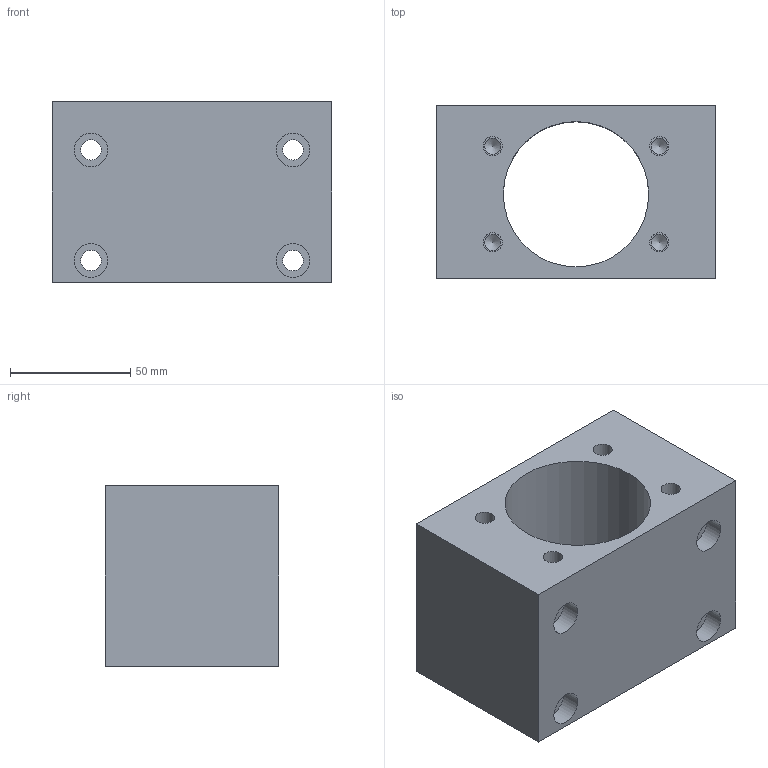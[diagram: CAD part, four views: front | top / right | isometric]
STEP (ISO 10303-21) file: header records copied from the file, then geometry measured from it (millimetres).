
FILE_DESCRIPTION(/* description */ (''),/* implementation_level */ '2;1');
FILE_NAME(/* name */ 'NH25F.stp',/* time_stamp */ '2017-01-06T08:09:14+08:00',/* author */ (''),/* organization */ (''),/* preprocessor_version */ 'ST-DEVELOPER v15',/* originating_system */ 'SIEMENS PLM Software NX 8.5',/* authorisation */ '');
FILE_SCHEMA (('AUTOMOTIVE_DESIGN { 1 0 10303 214 3 1 1 1 }'));
Length unit declared in the file: millimetre
Products named in the file (1): Admi1D605E1Dbzt3
Bounding box: 116 x 72 x 75 mm (x, y, z)
Volume: 387137.6 mm3; surface area: 63284.4 mm2
Topology: 1 solids, 1 shells, 43 faces, 92 edges, 63 vertices
Faces by surface type: cylinder 21, plane 18, cone 4
Full cylindrical faces by diameter (mm): 6.7 x4, 8 x4, 8.5 x4, 10 x4, 14 x4, 60.4 x1
Entity records: 1023 total; most frequent: DIRECTION 186, CARTESIAN_POINT 153, ORIENTED_EDGE 108, FACE_BOUND 92, EDGE_LOOP 90, AXIS2_PLACEMENT_3D 87, VERTEX_POINT 54, EDGE_CURVE 54
